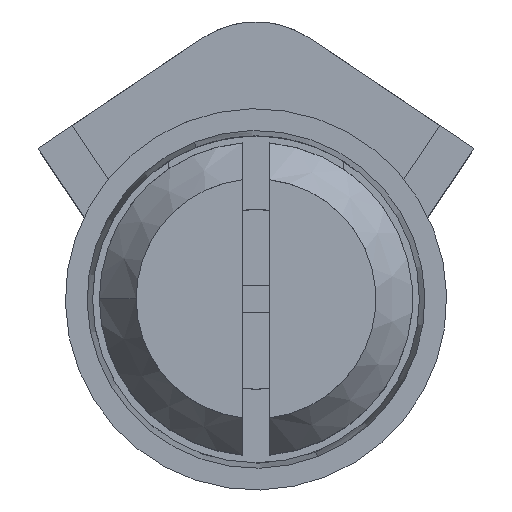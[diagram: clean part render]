
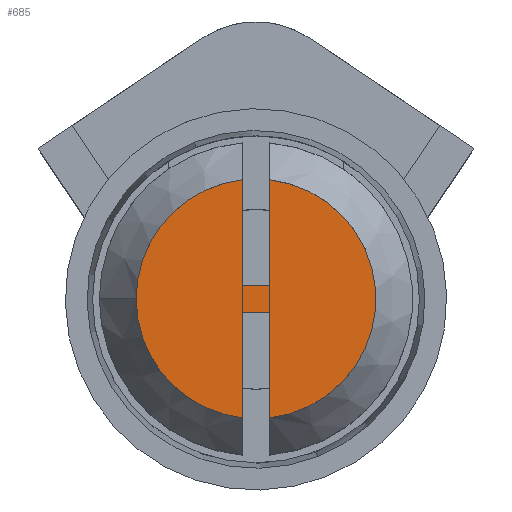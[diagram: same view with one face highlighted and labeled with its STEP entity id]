
A CAD part, top view. The second image highlights one B-rep face of the part: STEP entity #685.
In plain terms, the highlighted planar face has unit normal (0, 0, 1) as drawn and (1, 0, 0) by its records, which use the part's own axes.
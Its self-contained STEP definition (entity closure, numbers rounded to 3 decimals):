
#239 = DIRECTION ( 'NONE',  ( 0., 1., 0. ) ) ;
#281 = CARTESIAN_POINT ( 'NONE',  ( 23., 0., 0. ) ) ;
#382 = VERTEX_POINT ( 'NONE', #4384 ) ;
#413 = CARTESIAN_POINT ( 'NONE',  ( 23., 0.5, 0.5 ) ) ;
#524 = FACE_OUTER_BOUND ( 'NONE', #3362, .T. ) ;
#685 = ADVANCED_FACE ( 'NONE', ( #524 ), #4048, .F. ) ;
#1004 = CARTESIAN_POINT ( 'NONE',  ( 23., -0.5, 0.5 ) ) ;
#1052 = EDGE_CURVE ( 'NONE', #8446, #13890, #3955, .T. ) ;
#1118 = LINE ( 'NONE', #3584, #2081 ) ;
#1328 = LINE ( 'NONE', #11739, #12427 ) ;
#1372 = EDGE_CURVE ( 'NONE', #10859, #4851, #1328, .T. ) ;
#1435 = CARTESIAN_POINT ( 'NONE',  ( 23., 0.5, -0.5 ) ) ;
#1744 = DIRECTION ( 'NONE',  ( 0., -1., 0. ) ) ;
#1821 = DIRECTION ( 'NONE',  ( 0., 0., 1. ) ) ;
#1921 = VECTOR ( 'NONE', #7671, 1000. ) ;
#2081 = VECTOR ( 'NONE', #2197, 1000. ) ;
#2197 = DIRECTION ( 'NONE',  ( 0., 1., 0. ) ) ;
#2828 = ORIENTED_EDGE ( 'NONE', *, *, #5541, .F. ) ;
#2892 = LINE ( 'NONE', #12228, #12893 ) ;
#3303 = AXIS2_PLACEMENT_3D ( 'NONE', #281, #5802, #11841 ) ;
#3349 = CIRCLE ( 'NONE', #7234, 4.4 ) ;
#3362 = EDGE_LOOP ( 'NONE', ( #11929, #12690, #13843, #6689, #5346, #12261, #9915, #11375, #2828 ) ) ;
#3565 = VECTOR ( 'NONE', #14580, 1000. ) ;
#3584 = CARTESIAN_POINT ( 'NONE',  ( 23., 4.4, 0.5 ) ) ;
#3955 = LINE ( 'NONE', #14561, #1921 ) ;
#4048 = PLANE ( 'NONE',  #6973 ) ;
#4125 = VERTEX_POINT ( 'NONE', #6634 ) ;
#4384 = CARTESIAN_POINT ( 'NONE',  ( 23., -4.371, -0.5 ) ) ;
#4452 = EDGE_CURVE ( 'NONE', #11227, #6188, #3349, .T. ) ;
#4851 = VERTEX_POINT ( 'NONE', #5084 ) ;
#4881 = VERTEX_POINT ( 'NONE', #9736 ) ;
#5084 = CARTESIAN_POINT ( 'NONE',  ( 23., -0.5, -0.5 ) ) ;
#5245 = DIRECTION ( 'NONE',  ( 0., 0., 1. ) ) ;
#5346 = ORIENTED_EDGE ( 'NONE', *, *, #11035, .F. ) ;
#5541 = EDGE_CURVE ( 'NONE', #6188, #4125, #12829, .T. ) ;
#5802 = DIRECTION ( 'NONE',  ( -1., 0., 0. ) ) ;
#6055 = LINE ( 'NONE', #10715, #12113 ) ;
#6188 = VERTEX_POINT ( 'NONE', #6965 ) ;
#6305 = EDGE_CURVE ( 'NONE', #11227, #10859, #6055, .T. ) ;
#6404 = CARTESIAN_POINT ( 'NONE',  ( 23., 4.4, 0. ) ) ;
#6420 = CARTESIAN_POINT ( 'NONE',  ( 23., -4.371, 0.5 ) ) ;
#6634 = CARTESIAN_POINT ( 'NONE',  ( 23., 4.371, 0.5 ) ) ;
#6689 = ORIENTED_EDGE ( 'NONE', *, *, #11802, .T. ) ;
#6965 = CARTESIAN_POINT ( 'NONE',  ( 23., 0., 4.4 ) ) ;
#6973 = AXIS2_PLACEMENT_3D ( 'NONE', #6404, #9913, #1821 ) ;
#7043 = DIRECTION ( 'NONE',  ( -1., 0., 0. ) ) ;
#7185 = DIRECTION ( 'NONE',  ( 0., 0., 1. ) ) ;
#7234 = AXIS2_PLACEMENT_3D ( 'NONE', #7452, #11054, #5245 ) ;
#7452 = CARTESIAN_POINT ( 'NONE',  ( 23., 0., 0. ) ) ;
#7671 = DIRECTION ( 'NONE',  ( 0., 0., 1. ) ) ;
#8446 = VERTEX_POINT ( 'NONE', #1435 ) ;
#9736 = CARTESIAN_POINT ( 'NONE',  ( 23., 4.371, -0.5 ) ) ;
#9912 = CARTESIAN_POINT ( 'NONE',  ( 23., 4.4, -0.5 ) ) ;
#9913 = DIRECTION ( 'NONE',  ( -1., 0., 0. ) ) ;
#9915 = ORIENTED_EDGE ( 'NONE', *, *, #1052, .T. ) ;
#10572 = DIRECTION ( 'NONE',  ( 0., 0., -1. ) ) ;
#10715 = CARTESIAN_POINT ( 'NONE',  ( 23., 4.4, 0.5 ) ) ;
#10859 = VERTEX_POINT ( 'NONE', #1004 ) ;
#11035 = EDGE_CURVE ( 'NONE', #4881, #382, #13776, .T. ) ;
#11054 = DIRECTION ( 'NONE',  ( -1., 0., 0. ) ) ;
#11227 = VERTEX_POINT ( 'NONE', #6420 ) ;
#11375 = ORIENTED_EDGE ( 'NONE', *, *, #11934, .T. ) ;
#11739 = CARTESIAN_POINT ( 'NONE',  ( 23., -0.5, 0.5 ) ) ;
#11802 = EDGE_CURVE ( 'NONE', #4851, #382, #12607, .T. ) ;
#11841 = DIRECTION ( 'NONE',  ( 0., 0., 1. ) ) ;
#11929 = ORIENTED_EDGE ( 'NONE', *, *, #4452, .F. ) ;
#11934 = EDGE_CURVE ( 'NONE', #13890, #4125, #1118, .T. ) ;
#12113 = VECTOR ( 'NONE', #239, 1000. ) ;
#12228 = CARTESIAN_POINT ( 'NONE',  ( 23., 4.4, -0.5 ) ) ;
#12261 = ORIENTED_EDGE ( 'NONE', *, *, #14717, .T. ) ;
#12427 = VECTOR ( 'NONE', #10572, 1000. ) ;
#12607 = LINE ( 'NONE', #9912, #3565 ) ;
#12690 = ORIENTED_EDGE ( 'NONE', *, *, #6305, .T. ) ;
#12829 = CIRCLE ( 'NONE', #3303, 4.4 ) ;
#12893 = VECTOR ( 'NONE', #1744, 1000. ) ;
#13776 = CIRCLE ( 'NONE', #14757, 4.4 ) ;
#13843 = ORIENTED_EDGE ( 'NONE', *, *, #1372, .T. ) ;
#13890 = VERTEX_POINT ( 'NONE', #413 ) ;
#14561 = CARTESIAN_POINT ( 'NONE',  ( 23., 0.5, 0.5 ) ) ;
#14580 = DIRECTION ( 'NONE',  ( 0., -1., 0. ) ) ;
#14717 = EDGE_CURVE ( 'NONE', #4881, #8446, #2892, .T. ) ;
#14757 = AXIS2_PLACEMENT_3D ( 'NONE', #15074, #7043, #7185 ) ;
#15074 = CARTESIAN_POINT ( 'NONE',  ( 23., 0., 0. ) ) ;
